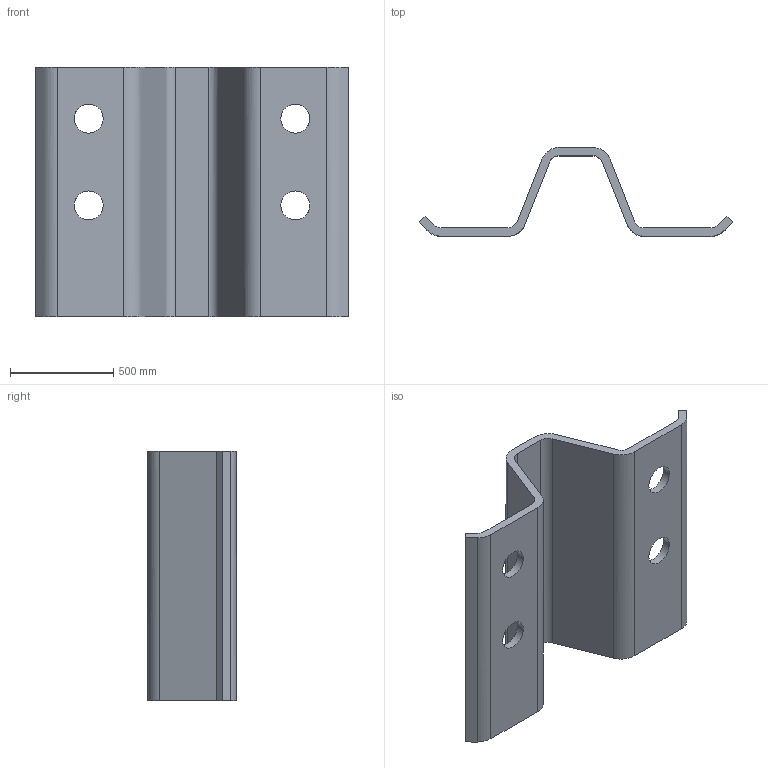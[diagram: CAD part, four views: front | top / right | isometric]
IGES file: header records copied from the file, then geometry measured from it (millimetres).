
Global section: file name: ZC140; native system: Autodesk RealDWG; preprocessor: Autodesk Translation Framework DWG producer (atf_dwg_producer); organization: unknown; date: 20241104.112330; units: centimetre
Bounding box: 1517.2 x 430 x 1210 mm (x, y, z)
Volume: 95219307.6 mm3; surface area: 5089651.9 mm2
Topology: 1 solids, 1 shells, 34 faces, 104 edges, 72 vertices
Faces by surface type: bspline 34
